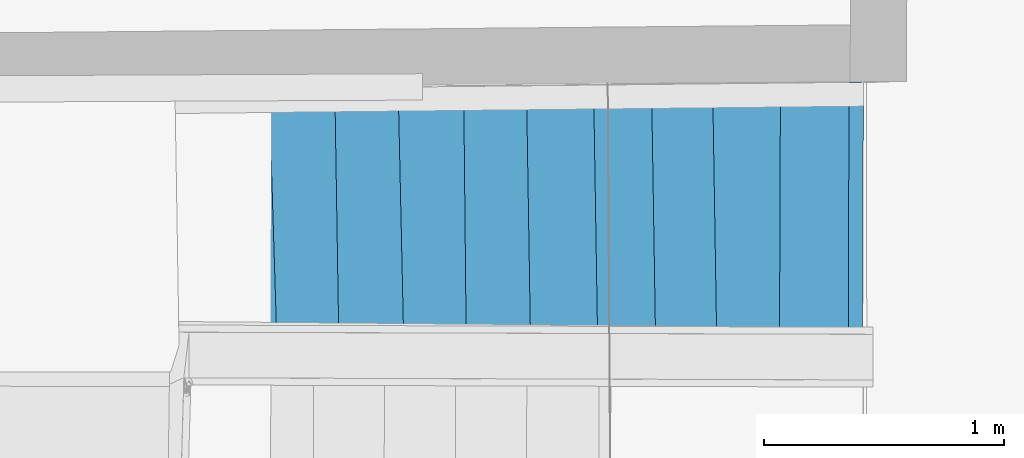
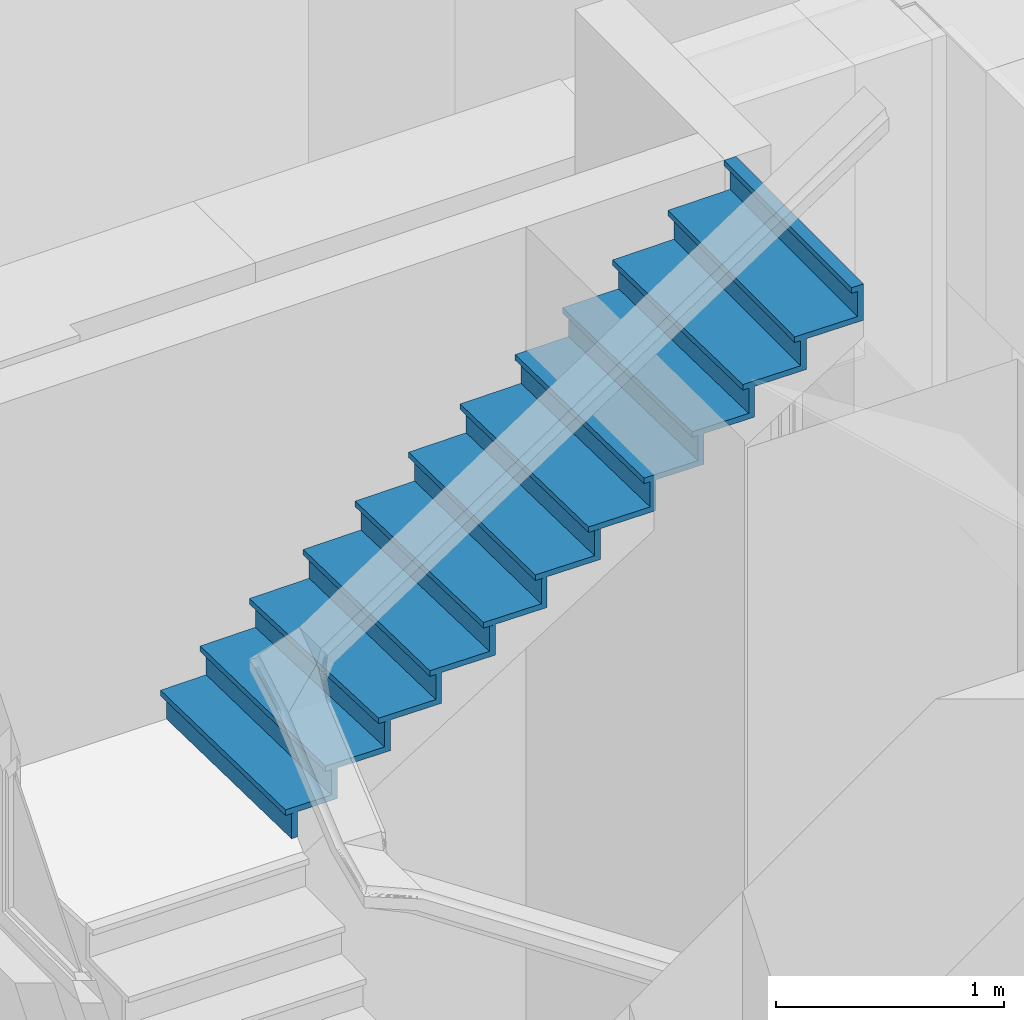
# One storey, part 75 of 97: 1 stair flight, 1 element without a shape of its own.
"""IFC2X3 building model written with IfcOpenShell, lengths in centimetres."""

import ifcopenshell
import ifcopenshell.guid

model = None  # the IFC model being written
_history = None  # IfcOwnerHistory: only IFC2X3 demands one
_inside = {}  # id of a spatial element -> (the spatial element, [elements in it])
_under = {}  # id of a project, library or spatial element -> (it, [spatial elements below it])
_declared = {}  # id of a project -> (the project, [libraries it declares])
_typed = {}  # id of a type object -> (the type object, [elements of that type])
_made_of = {}  # id of a material, layer set ... -> (it, [elements and type objects made of it])


def new_model(schema):
    """Start an empty IFC model of exactly this schema.

    Asked for "IFC4X3", IfcOpenShell would pick the latest addendum, in which some entities
    have other attributes; the version numbers below select the first issue.
    IFC2X3 requires an IfcOwnerHistory on every rooted entity: one is made here for all.
    """
    global model, _history
    if schema == "IFC4X3":
        model = ifcopenshell.file(schema_version=(4, 3, 0, 0))
    else:
        model = ifcopenshell.file(schema=schema)
    _inside.clear()
    _under.clear()
    _declared.clear()
    _typed.clear()
    _made_of.clear()
    _history = None
    if model.schema == "IFC2X3":
        org = make("IfcOrganization", Name="unknown")
        user = make(
            "IfcPersonAndOrganization",
            ThePerson=make("IfcPerson", FamilyName="unknown"),
            TheOrganization=org,
        )
        app = make(
            "IfcApplication",
            ApplicationDeveloper=org,
            Version="unknown",
            ApplicationFullName="unknown",
            ApplicationIdentifier="unknown",
        )
        _history = make(
            "IfcOwnerHistory",
            OwningUser=user,
            OwningApplication=app,
            ChangeAction="ADDED",
            CreationDate=0,
        )
    return model


def make(cls, **values):
    """One entity of the class cls with the attributes given. An attribute that is None is left unset."""
    return model.create_entity(
        cls, **{name: value for name, value in values.items() if value is not None}
    )


def entity(cls, *values):
    """Any entity or typed value of the class cls, its attributes in the order of the schema. None: left unset."""
    e = model.create_entity(cls)
    for i, value in enumerate(values):
        if value is not None:
            e[i] = value
    return e


def rooted(cls, **values):
    """An entity with a GlobalId (a new one), such as an element, a storey or a relation."""
    return make(cls, GlobalId=ifcopenshell.guid.new(), OwnerHistory=_history, **values)


def si_unit(unit_type, name, prefix=None):
    """IfcSIUnit, for example si_unit("LENGTHUNIT", "METRE", prefix="MILLI")."""
    return make("IfcSIUnit", UnitType=unit_type, Prefix=prefix, Name=name)


def converted_unit(unit_type, name, factor, base, dimensions=None, offset=None):
    """IfcConversionBasedUnit, such as the inch: factor (a typed value) times the base unit."""
    return make(
        "IfcConversionBasedUnit"
        if offset is None
        else "IfcConversionBasedUnitWithOffset",
        ConversionOffset=offset,
        Dimensions=None
        if dimensions is None
        else entity("IfcDimensionalExponents", *dimensions),
        UnitType=unit_type,
        Name=name,
        ConversionFactor=make(
            "IfcMeasureWithUnit", ValueComponent=factor, UnitComponent=base
        ),
    )


def assignment(units):
    """IfcUnitAssignment: the units of a project."""
    return None if units is None else make("IfcUnitAssignment", Units=units)


def point(xyz):
    """IfcCartesianPoint."""
    return None if xyz is None else make("IfcCartesianPoint", Coordinates=xyz)


def direction(xyz):
    """IfcDirection."""
    return None if xyz is None else make("IfcDirection", DirectionRatios=xyz)


def frame(location, z_axis=None, x_axis=None):
    """IfcAxis2Placement3D, a coordinate frame: its origin and axes. An axis left out is left unset."""
    return make(
        "IfcAxis2Placement3D",
        Location=point(location),
        Axis=direction(z_axis),
        RefDirection=direction(x_axis),
    )


def origin():
    """The frame at (0, 0, 0) with its axes left unset."""
    return frame((0.0, 0.0, 0.0))


def origin_with_axes():
    """The frame at (0, 0, 0) with the z axis (0, 0, 1) and the x axis (1, 0, 0) written out."""
    return frame((0.0, 0.0, 0.0), z_axis=(0.0, 0.0, 1.0), x_axis=(1.0, 0.0, 0.0))


def place(relative_to, where):
    """IfcLocalPlacement: puts the frame where relative to a parent placement (None: the world)."""
    return make(
        "IfcLocalPlacement", PlacementRelTo=relative_to, RelativePlacement=where
    )


def context(
    kind, dimensions, precision=None, world=None, true_north=None, identifier=None
):
    """IfcGeometricRepresentationContext, for example the 3D "Model" context."""
    return make(
        "IfcGeometricRepresentationContext",
        ContextIdentifier=identifier,
        ContextType=kind,
        CoordinateSpaceDimension=dimensions,
        Precision=precision,
        WorldCoordinateSystem=world,
        TrueNorth=true_north,
    )


def subcontext(parent, identifier, kind, view, scale=None):
    """IfcGeometricRepresentationSubContext, for example "Body" below "Model"."""
    return make(
        "IfcGeometricRepresentationSubContext",
        ContextIdentifier=identifier,
        ContextType=kind,
        ParentContext=parent,
        TargetScale=scale,
        TargetView=view,
    )


def project(units=None, contexts=None):
    """IfcProject with its units and contexts."""
    return rooted(
        "IfcProject",
        Name="project",
        RepresentationContexts=contexts,
        UnitsInContext=assignment(units),
    )


def spatial(cls, under=None, at=None, **own):
    """A site, building, storey or space (cls), placed at a placement, below another one or the project."""
    s = rooted(cls, ObjectPlacement=at, **own)
    if under is not None:
        _under.setdefault(under.id(), (under, []))[1].append(s)
    return s


def faces_of(points, faces, orient=None, outer=None):
    """IfcFace entities. A face is a list of loops; a loop is a list of indices into points, from 0.

    orient and outer hold one flag for each loop. By default every Orientation is true, the
    first loop of a face is its IfcFaceOuterBound and the others are IfcFaceBound.
    """
    made = []
    for i, loops in enumerate(faces):
        bounds = []
        for j, loop in enumerate(loops):
            is_outer = j == 0 if outer is None else outer[i][j]
            bounds.append(
                make(
                    "IfcFaceOuterBound" if is_outer else "IfcFaceBound",
                    Bound=make("IfcPolyLoop", Polygon=[points[k] for k in loop]),
                    Orientation=True if orient is None else orient[i][j],
                )
            )
        made.append(make("IfcFace", Bounds=bounds))
    return made


def faceted_brep(points, faces, orient=None, outer=None, voids=None):
    """IfcFacetedBrep: a solid bounded by flat faces; with voids (closed shells), ...WithVoids."""
    shared = [point(p) for p in points]
    hull = make("IfcClosedShell", CfsFaces=faces_of(shared, faces, orient, outer))
    if voids is None:
        return make("IfcFacetedBrep", Outer=hull)
    return make(
        "IfcFacetedBrepWithVoids",
        Outer=hull,
        Voids=[
            make(cls, CfsFaces=faces_of(shared, fs, o, b)) for cls, fs, o, b in voids
        ],
    )


def shape(context_of_items, identifier, shape_type, items):
    """IfcShapeRepresentation: the items that make up one representation, for example the "Body"."""
    return make(
        "IfcShapeRepresentation",
        ContextOfItems=context_of_items,
        RepresentationIdentifier=identifier,
        RepresentationType=shape_type,
        Items=items,
    )


def material(Name=None, Category=None):
    """IfcMaterial."""
    return make("IfcMaterial", Name=Name, Category=Category)


def material_list(materials):
    """IfcMaterialList."""
    return make("IfcMaterialList", Materials=materials)


def made_of(thing, what):
    """Note that an element or type object is made of a material, layer set ...; save() writes the relation."""
    if what is not None:
        _made_of.setdefault(what.id(), (what, []))[1].append(thing)
    return thing


def element(
    cls,
    number,
    at=None,
    inside=None,
    cuts=None,
    type_object=None,
    material=None,
    context=None,
    identifier="Body",
    shape_type=None,
    held_by="IfcProductDefinitionShape",
    body=None,
    shapes=None,
    **own,
):
    """One element of the class cls, such as IfcWall. Its Tag is "e" and its number.

    at: its placement. inside: the storey or other place that contains it. cuts: it is an
    opening in that element (IfcRelVoidsElement). A single representation is given by context,
    identifier, shape_type and body (its items); several are given by shapes. held_by: the class
    of the entity that holds the representations. save() writes the other relations.
    """
    e = rooted(cls, Tag="e%d" % number, ObjectPlacement=at, **own)
    if body is not None:
        shapes = [shape(context, identifier, shape_type, body)]
    if shapes is not None:
        e.Representation = make(held_by, Representations=shapes)
    if inside is not None:
        _inside.setdefault(inside.id(), (inside, []))[1].append(e)
    if cuts is not None:
        rooted(
            "IfcRelVoidsElement", RelatingBuildingElement=cuts, RelatedOpeningElement=e
        )
    if type_object is not None:
        _typed.setdefault(type_object.id(), (type_object, []))[1].append(e)
    return made_of(e, material)


def aggregate(whole, parts):
    """IfcRelAggregates: a whole, such as a stair, and the parts it consists of."""
    return rooted("IfcRelAggregates", RelatingObject=whole, RelatedObjects=parts)


def save(model, path):
    """Write the relations noted so far, then the file.

    IfcRelAggregates (storeys below a building ...), IfcRelContainedInSpatialStructure (elements
    in a storey), IfcRelDefinesByType, IfcRelAssociatesMaterial and IfcRelDeclares: one each for
    every whole, place, type object, material and project.
    """
    for whole, parts in _under.values():
        aggregate(whole, parts)
    for where, things in _inside.values():
        rooted(
            "IfcRelContainedInSpatialStructure",
            RelatedElements=things,
            RelatingStructure=where,
        )
    for kind, things in _typed.values():
        rooted("IfcRelDefinesByType", RelatedObjects=things, RelatingType=kind)
    for what, things in _made_of.values():
        rooted("IfcRelAssociatesMaterial", RelatedObjects=things, RelatingMaterial=what)
    for by, libraries in _declared.values():
        rooted("IfcRelDeclares", RelatingContext=by, RelatedDefinitions=libraries)
    model.write(path)


model = new_model("IFC2X3")

# Units and contexts
model_context = context("Model", 3, precision=0.0001, world=origin(), true_north=direction((0.225632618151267, 0.974212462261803, 0.0)))
body_context = subcontext(model_context, "Body", "Model", "MODEL_VIEW")
ifc_project = project(units=[si_unit("LENGTHUNIT", "METRE", prefix="CENTI"), si_unit("AREAUNIT", "SQUARE_METRE", prefix="CENTI"), si_unit("VOLUMEUNIT", "CUBIC_METRE", prefix="CENTI"), converted_unit("PLANEANGLEUNIT", "DEGREE", entity("IfcRatioMeasure", 0.0174532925), si_unit("PLANEANGLEUNIT", "RADIAN"), dimensions=[0, 0, 0, 0, 0, 0, 0])], contexts=[model_context])

# Site, building, storey
site_placement = place(None, origin_with_axes())
site = spatial("IfcSite", under=ifc_project, at=site_placement, Name="Default Site", CompositionType="ELEMENT")
building_placement = place(site_placement, origin_with_axes())
building = spatial("IfcBuilding", under=site, at=building_placement, Name="Default Building", CompositionType="ELEMENT")
storey_placement = place(building_placement, origin_with_axes())
storey = spatial("IfcBuildingStorey", under=building, at=storey_placement, Name="Rez-de-chaussée", CompositionType="ELEMENT", Elevation=0.0)

# Stair, stair flight
stair_placement = place(storey_placement, frame((-869.486892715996, -231.842367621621, 0.0), z_axis=(0.0, 0.0, 1.0), x_axis=(1.0, 0.0, 0.0)))
stair = element("IfcStair", 1, at=stair_placement, inside=storey, Name="Escalier 12888", ShapeType="NOTDEFINED")
ifc_material_1 = material(Name="Noyer 01")
ifc_material_2 = material(Name="Épicéa")
ifc_material_list = material_list([ifc_material_1, ifc_material_2])
stair_flight_placement = place(stair_placement, frame((-318.346130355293, 247.82143709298, 293.562626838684), z_axis=(0.0, 0.0, 1.0), x_axis=(0.999872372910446, 0.0159761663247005, 0.0)))
stair_flight = element("IfcStairFlight", 2, at=stair_flight_placement, material=ifc_material_list, Name="4294967269", context=body_context, shape_type="Brep", body=[
    faceted_brep([(-2.99997470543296, 0.0, -13.4757041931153), (0.0, 0.0, -13.4757041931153), (6.44021707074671e-05, -106.823572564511, -13.4757041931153), (-2.99991030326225, -106.823572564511, -13.4757041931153), (0.0, 0.0, -4.44089209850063e-14), (-2.99997470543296, 0.0, -4.44089209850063e-14), (-2.99991030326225, -106.823572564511, -4.44089209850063e-14), (6.44021707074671e-05, -106.823572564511, -4.44089209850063e-14), (-2.99991026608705, -106.823572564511, -13.4757041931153), (-2.99997474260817, -2.2425257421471e-14, -4.44089209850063e-14), (-2.99997470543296, 5.65414373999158e-10, -13.4757041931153), (-1.06565369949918e-19, -5.65414373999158e-10, -4.44089209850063e-14), (-3.71752085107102e-08, -2.24252574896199e-14, -13.4757041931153), (6.44393459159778e-05, -106.823572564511, -4.44089209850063e-14), (6.4402170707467e-05, -106.823572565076, -13.4757041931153), (-2.99991030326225, -106.823572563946, -4.44089209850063e-14)], [[[0, 1, 2]], [[2, 3, 0]], [[4, 5, 6]], [[6, 7, 4]], [[5, 0, 8]], [[3, 6, 9]], [[4, 1, 10]], [[0, 5, 11]], [[7, 2, 12]], [[1, 4, 13]], [[6, 3, 14]], [[2, 7, 15]]]),
    faceted_brep([(17.1911128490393, -0.108181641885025, 3.00002098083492), (20.1910876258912, -0.108177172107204, 3.00002098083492), (20.1912324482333, -107.320694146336, 3.00002098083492), (17.191257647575, -107.32070010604, 3.00002098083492), (20.1910876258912, -0.108177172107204, 16.4757013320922), (17.1911128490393, -0.108181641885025, 16.4757013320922), (17.191257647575, -107.32070010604, 16.4757013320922), (20.1912324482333, -107.320694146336, 16.4757013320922), (17.1912576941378, -107.32070010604, 3.00002098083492), (17.1911128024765, -0.108181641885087, 16.4757013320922), (17.1911128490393, -0.108181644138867, 3.00002098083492), (20.1910876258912, -0.108177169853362, 16.4757013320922), (20.1910876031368, -0.108177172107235, 3.00002098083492), (20.1912324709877, -107.320694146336, 16.4757013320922), (20.1912324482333, -107.32069414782, 3.00002098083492), (17.191257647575, -107.320700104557, 16.4757013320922)], [[[0, 1, 2]], [[2, 3, 0]], [[4, 5, 6]], [[6, 7, 4]], [[5, 0, 8]], [[3, 6, 9]], [[4, 1, 10]], [[0, 5, 11]], [[7, 2, 12]], [[1, 4, 13]], [[6, 3, 14]], [[2, 7, 15]]]),
    faceted_brep([(42.2584909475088, -0.287478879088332, 19.4757223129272), (45.2581354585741, -0.242481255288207, 19.4757223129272), (46.8742438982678, -107.977650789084, 19.4757223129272), (43.8745993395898, -108.022651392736, 19.4757223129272), (45.2581354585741, -0.242481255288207, 32.9514026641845), (42.2584909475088, -0.287478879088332, 32.9514026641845), (43.8745993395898, -108.022651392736, 32.9514026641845), (46.8742438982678, -107.977650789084, 32.9514026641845), (43.874599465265, -108.022651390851, 19.4757223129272), (42.2584908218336, -0.287478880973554, 32.9514026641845), (42.2584909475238, -0.287478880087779, 19.4757223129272), (45.2581354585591, -0.24248125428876, 32.9514026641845), (45.2581354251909, -0.24248125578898, 19.4757223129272), (46.874243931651, -107.977650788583, 32.9514026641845), (46.874243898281, -107.977650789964, 19.4757223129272), (43.8745993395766, -108.022651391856, 32.9514026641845)], [[[0, 1, 2]], [[2, 3, 0]], [[4, 5, 6]], [[6, 7, 4]], [[5, 0, 8]], [[3, 6, 9]], [[4, 1, 10]], [[0, 5, 11]], [[7, 2, 12]], [[1, 4, 13]], [[6, 3, 14]], [[2, 7, 15]]]),
    faceted_brep([(69.6985268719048, -0.389501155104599, 35.9514236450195), (72.6985969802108, -0.38949969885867, 35.9514236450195), (72.6986997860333, -108.613467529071, 35.9514236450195), (69.6987249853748, -108.613473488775, 35.9514236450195), (72.6985969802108, -0.38949969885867, 49.4271039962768), (69.6985268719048, -0.389501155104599, 49.4271039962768), (69.6987249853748, -108.613473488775, 49.4271039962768), (72.6986997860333, -108.613467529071, 49.4271039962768), (69.698725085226, -108.613473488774, 35.9514236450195), (69.6985267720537, -0.389501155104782, 49.4271039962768), (69.6985268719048, -0.389501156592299, 35.9514236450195), (72.6985969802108, -0.38949969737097, 49.4271039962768), (72.6985970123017, -0.389499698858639, 35.9514236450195), (72.6986997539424, -108.613467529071, 49.4271039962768), (72.6986997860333, -108.613467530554, 35.9514236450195), (69.6987249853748, -108.613473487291, 49.4271039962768)], [[[0, 1, 2]], [[2, 3, 0]], [[4, 5, 6]], [[6, 7, 4]], [[5, 0, 8]], [[3, 6, 9]], [[4, 1, 10]], [[0, 5, 11]], [[7, 2, 12]], [[1, 4, 13]], [[6, 3, 14]], [[2, 7, 15]]]),
    faceted_brep([(96.1423586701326, -0.548973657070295, 52.4271249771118), (99.1423315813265, -0.531177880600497, 52.4271249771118), (99.7873917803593, -109.28041738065, 52.4271249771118), (96.787514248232, -109.2982131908, 52.4271249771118), (99.1423315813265, -0.531177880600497, 65.902829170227), (96.1423586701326, -0.548973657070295, 65.902829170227), (96.787514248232, -109.2982131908, 65.902829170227), (99.7873917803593, -109.28041738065, 65.902829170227), (96.7875143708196, -109.298213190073, 52.4271249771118), (96.142358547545, -0.548973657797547, 65.902829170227), (96.1423586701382, -0.548973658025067, 52.4271249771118), (99.1423315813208, -0.531177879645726, 65.902829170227), (99.1423316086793, -0.531177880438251, 52.4271249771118), (99.7873917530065, -109.280417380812, 65.902829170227), (99.7873917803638, -109.2804173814, 52.4271249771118), (96.7875142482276, -109.29821319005, 65.902829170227)], [[[0, 1, 2]], [[2, 3, 0]], [[4, 5, 6]], [[6, 7, 4]], [[5, 0, 8]], [[3, 6, 9]], [[4, 1, 10]], [[0, 5, 11]], [[7, 2, 12]], [[1, 4, 13]], [[6, 3, 14]], [[2, 7, 15]]]),
    faceted_brep([(123.481340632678, -0.659904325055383, 68.9028263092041), (126.481222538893, -0.67765090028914, 68.9028263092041), (125.834948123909, -109.921730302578, 68.9028263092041), (122.835066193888, -109.90398521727, 68.9028263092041), (126.481222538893, -0.67765090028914, 82.3785305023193), (123.481340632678, -0.659904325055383, 82.3785305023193), (122.835066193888, -109.90398521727, 82.3785305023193), (125.834948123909, -109.921730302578, 82.3785305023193), (122.835066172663, -109.903985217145, 68.9028263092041), (123.481340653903, -0.659904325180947, 82.3785305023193), (123.481340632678, -0.659904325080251, 68.9028263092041), (126.481222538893, -0.677650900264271, 82.3785305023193), (126.48122257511, -0.677650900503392, 68.9028263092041), (125.834948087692, -109.921730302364, 82.3785305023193), (125.834948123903, -109.921730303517, 68.9028263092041), (122.835066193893, -109.903985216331, 82.3785305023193)], [[[0, 1, 2]], [[2, 3, 0]], [[4, 5, 6]], [[6, 7, 4]], [[5, 0, 8]], [[3, 6, 9]], [[4, 1, 10]], [[0, 5, 11]], [[7, 2, 12]], [[1, 4, 13]], [[6, 3, 14]], [[2, 7, 15]]]),
    faceted_brep([(149.68178521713, -0.818028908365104, 85.3785276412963), (152.681759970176, -0.818025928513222, 85.3785276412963), (152.681947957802, -110.582725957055, 85.3785276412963), (149.681973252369, -110.582725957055, 85.3785276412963), (152.681759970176, -0.818025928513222, 98.8542318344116), (149.68178521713, -0.818028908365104, 98.8542318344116), (149.681973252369, -110.582725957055, 98.8542318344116), (152.681947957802, -110.582725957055, 98.8542318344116), (149.681973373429, -110.582725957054, 85.3785276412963), (149.68178509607, -0.818028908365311, 98.8542318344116), (149.68178521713, -0.818028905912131, 85.3785276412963), (152.681759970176, -0.818025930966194, 98.8542318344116), (152.681760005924, -0.818025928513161, 85.3785276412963), (152.681947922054, -110.582725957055, 98.8542318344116), (152.681947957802, -110.58272595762, 85.3785276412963), (149.681973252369, -110.582725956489, 98.8542318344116)], [[[0, 1, 2]], [[2, 3, 0]], [[4, 5, 6]], [[6, 7, 4]], [[5, 0, 8]], [[3, 6, 9]], [[4, 1, 10]], [[0, 5, 11]], [[7, 2, 12]], [[1, 4, 13]], [[6, 3, 14]], [[2, 7, 15]]]),
    faceted_brep([(177.684079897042, -0.968057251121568, 101.854228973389), (180.684150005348, -0.968055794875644, 101.854228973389), (180.684207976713, -111.272165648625, 101.854228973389), (177.684233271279, -111.272165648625, 101.854228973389), (180.684150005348, -0.968055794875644, 115.329909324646), (177.684079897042, -0.968057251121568, 115.329909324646), (177.684233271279, -111.272165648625, 115.329909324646), (180.684207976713, -111.272165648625, 115.329909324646), (177.684233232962, -111.272165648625, 101.854228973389), (177.68407993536, -0.968057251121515, 115.329909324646), (177.684079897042, -0.968057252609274, 101.854228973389), (180.684150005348, -0.968055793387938, 115.329909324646), (180.684150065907, -0.968055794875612, 101.854228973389), (180.684207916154, -111.272165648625, 115.329909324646), (180.684207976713, -111.27216564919, 101.854228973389), (177.684233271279, -111.272165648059, 115.329909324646)], [[[0, 1, 2]], [[2, 3, 0]], [[4, 5, 6]], [[6, 7, 4]], [[5, 0, 8]], [[3, 6, 9]], [[4, 1, 10]], [[0, 5, 11]], [[7, 2, 12]], [[1, 4, 13]], [[6, 3, 14]], [[2, 7, 15]]]),
    faceted_brep([(201.866462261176, -1.09762085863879, 118.329930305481), (204.866437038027, -1.09761638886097, 118.329930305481), (204.866586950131, -111.867551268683, 118.329930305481), (201.866612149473, -111.867557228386, 118.329930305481), (204.866437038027, -1.09761638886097, 131.805634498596), (201.866462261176, -1.09762085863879, 131.805634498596), (201.866612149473, -111.867557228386, 131.805634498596), (204.866586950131, -111.867551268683, 131.805634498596), (201.866612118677, -111.867557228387, 118.329930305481), (201.866462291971, -1.09762085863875, 131.805634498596), (201.866462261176, -1.09762086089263, 118.329930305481), (204.866437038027, -1.09761638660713, 131.805634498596), (204.866437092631, -1.0976163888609, 118.329930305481), (204.866586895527, -111.867551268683, 131.805634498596), (204.866586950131, -111.867551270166, 118.329930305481), (201.866612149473, -111.867557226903, 131.805634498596)], [[[0, 1, 2]], [[2, 3, 0]], [[4, 5, 6]], [[6, 7, 4]], [[5, 0, 8]], [[3, 6, 9]], [[4, 1, 10]], [[0, 5, 11]], [[7, 2, 12]], [[1, 4, 13]], [[6, 3, 14]], [[2, 7, 15]]]),
    faceted_brep([(227.368785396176, -1.23425394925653, 134.805607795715), (230.368760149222, -1.23425096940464, 134.805607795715), (230.368977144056, -112.495444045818, 134.805607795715), (227.368907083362, -112.495442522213, 134.805607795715), (230.368760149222, -1.23425096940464, 148.28131198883), (227.368785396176, -1.23425394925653, 148.28131198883), (227.368907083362, -112.495442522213, 148.28131198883), (230.368977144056, -112.495444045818, 148.28131198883), (227.368907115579, -112.495442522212, 134.805607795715), (227.368785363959, -1.23425394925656, 148.28131198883), (227.368785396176, -1.23425394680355, 134.805607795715), (230.368760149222, -1.23425097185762, 148.28131198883), (230.368760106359, -1.23425096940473, 134.805607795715), (230.368977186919, -112.495444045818, 148.28131198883), (230.368977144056, -112.495444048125, 134.805607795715), (227.368907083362, -112.495442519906, 148.28131198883)], [[[0, 1, 2]], [[2, 3, 0]], [[4, 5, 6]], [[6, 7, 4]], [[5, 0, 8]], [[3, 6, 9]], [[4, 1, 10]], [[0, 5, 11]], [[7, 2, 12]], [[1, 4, 13]], [[6, 3, 14]], [[2, 7, 15]]]),
    faceted_brep([(255.675397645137, -1.32701387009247, 151.281332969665), (258.674812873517, -1.38590630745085, 151.281332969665), (256.480508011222, -113.138333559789, 151.281332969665), (253.481092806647, -113.079439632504, 151.281332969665), (258.674812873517, -1.38590630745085, 164.757037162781), (255.675397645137, -1.32701387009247, 164.757037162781), (253.481092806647, -113.079439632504, 164.757037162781), (256.480508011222, -113.138333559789, 164.757037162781), (253.481092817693, -113.079439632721, 151.281332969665), (255.675397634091, -1.32701386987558, 164.757037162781), (255.675397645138, -1.32701387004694, 151.281332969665), (258.674812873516, -1.38590630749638, 164.757037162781), (258.674812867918, -1.38590630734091, 151.281332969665), (256.48050801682, -113.138333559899, 164.757037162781), (256.480508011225, -113.138333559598, 151.281332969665), (253.481092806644, -113.079439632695, 164.757037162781)], [[[0, 1, 2]], [[2, 3, 0]], [[4, 5, 6]], [[6, 7, 4]], [[5, 0, 8]], [[3, 6, 9]], [[4, 1, 10]], [[0, 5, 11]], [[7, 2, 12]], [[1, 4, 13]], [[6, 3, 14]], [[2, 7, 15]]]),
    faceted_brep([(284.305685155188, -1.48216585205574, 167.7570104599), (287.305128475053, -1.53930017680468, 167.7570104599), (285.165894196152, -113.844589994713, 167.7570104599), (282.166450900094, -113.787454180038, 167.7570104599), (287.305128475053, -1.53930017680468, 181.232714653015), (284.305685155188, -1.48216585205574, 181.232714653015), (282.166450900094, -113.787454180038, 181.232714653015), (285.165894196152, -113.844589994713, 181.232714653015), (282.166450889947, -113.787454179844, 167.7570104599), (284.305685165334, -1.48216585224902, 181.232714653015), (284.305685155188, -1.48216585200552, 167.7570104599), (287.305128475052, -1.5393001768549, 181.232714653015), (287.305128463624, -1.53930017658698, 167.7570104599), (285.165894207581, -113.84458999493, 181.232714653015), (285.165894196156, -113.844589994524, 167.7570104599), (282.16645090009, -113.787454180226, 181.232714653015)], [[[0, 1, 2]], [[2, 3, 0]], [[4, 5, 6]], [[6, 7, 4]], [[5, 0, 8]], [[3, 6, 9]], [[4, 1, 10]], [[0, 5, 11]], [[7, 2, 12]], [[1, 4, 13]], [[6, 3, 14]], [[2, 7, 15]]]),
    faceted_brep([(-5.99990911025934, -106.675847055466, 3.00002098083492), (20.1912324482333, -107.320694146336, 3.00002098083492), (20.1910876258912, -0.108177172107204, 3.00002098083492), (-6.00000803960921, 0.0321468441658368, 3.00002098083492), (20.1910876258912, -0.108177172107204, -4.44089209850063e-14), (20.1912324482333, -107.320694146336, -4.44089209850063e-14), (-5.99990911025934, -106.675847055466, -4.44089209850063e-14), (-6.00000803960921, 0.0321468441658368, -4.44089209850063e-14), (-6.00000805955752, 0.0321468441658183, 3.00002098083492), (-5.99990909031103, -106.675847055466, -4.44089209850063e-14), (-5.99990911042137, -106.675847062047, 3.00002098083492), (20.1912324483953, -107.320694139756, -4.44089209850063e-14), (20.1912324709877, -107.320694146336, 3.00002098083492), (20.1910876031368, -0.108177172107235, -4.44089209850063e-14), (20.1910876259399, -0.108177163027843, 3.00002098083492), (-6.00000803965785, 0.0321468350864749, -4.44089209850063e-14)], [[[0, 1, 2]], [[2, 3, 0]], [[4, 5, 6]], [[6, 7, 4]], [[6, 0, 8]], [[3, 7, 9]], [[5, 1, 10]], [[0, 6, 11]], [[4, 2, 12]], [[1, 5, 13]], [[7, 3, 14]], [[2, 4, 15]]]),
    faceted_brep([(14.1912589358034, -107.172968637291, 19.4757223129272), (46.8742438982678, -107.977650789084, 19.4757223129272), (45.2581354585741, -0.242481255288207, 19.4757223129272), (14.1911749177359, -0.0760333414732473, 19.4757223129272), (45.2581354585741, -0.242481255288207, 16.4757013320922), (46.8742438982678, -107.977650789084, 16.4757013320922), (14.1912589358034, -107.172968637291, 16.4757013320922), (14.1911749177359, -0.0760333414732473, 16.4757013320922), (14.1911749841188, -0.0760333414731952, 19.4757223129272), (14.1912588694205, -107.172968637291, 16.4757013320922), (14.1912589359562, -107.172968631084, 19.4757223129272), (46.874243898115, -107.977650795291, 16.4757013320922), (46.874243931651, -107.977650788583, 19.4757223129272), (45.2581354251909, -0.24248125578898, 16.4757013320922), (45.2581354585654, -0.242481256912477, 19.4757223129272), (14.1911749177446, -0.0760333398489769, 16.4757013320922)], [[[0, 1, 2]], [[2, 3, 0]], [[4, 5, 6]], [[6, 7, 4]], [[6, 0, 8]], [[3, 7, 9]], [[5, 1, 10]], [[0, 6, 11]], [[4, 2, 12]], [[1, 5, 13]], [[7, 3, 14]], [[2, 4, 15]]]),
    faceted_brep([(40.8713147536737, -107.829854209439, 35.9514236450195), (72.6986997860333, -108.613467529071, 35.9514236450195), (72.6985969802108, -0.38949969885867, 35.9514236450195), (39.2569829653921, -0.210328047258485, 35.9514236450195), (72.6985969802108, -0.38949969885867, 32.9514026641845), (72.6986997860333, -108.613467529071, 32.9514026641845), (40.8713147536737, -107.829854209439, 32.9514026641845), (39.2569829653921, -0.210328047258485, 32.9514026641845), (39.2569831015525, -0.210328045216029, 35.9514236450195), (40.8713146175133, -107.829854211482, 32.9514026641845), (40.8713147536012, -107.829854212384, 35.9514236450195), (72.6986997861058, -108.613467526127, 32.9514026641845), (72.6986997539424, -108.613467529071, 35.9514236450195), (72.6985970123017, -0.389499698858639, 32.9514026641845), (72.6985969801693, -0.389499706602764, 35.9514236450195), (39.2569829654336, -0.210328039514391, 32.9514026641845)], [[[0, 1, 2]], [[2, 3, 0]], [[4, 5, 6]], [[6, 7, 4]], [[6, 0, 8]], [[3, 7, 9]], [[5, 1, 10]], [[0, 6, 11]], [[4, 2, 12]], [[1, 5, 13]], [[7, 3, 14]], [[2, 4, 15]]]),
    faceted_brep([(66.6987261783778, -108.465747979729, 52.4271249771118), (99.7873917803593, -109.28041738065, 52.4271249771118), (99.1423315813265, -0.531177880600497, 52.4271249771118), (66.6985889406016, -0.357352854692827, 52.4271249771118), (99.1423315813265, -0.531177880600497, 49.4271039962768), (99.7873917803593, -109.28041738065, 49.4271039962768), (66.6987261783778, -108.465747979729, 49.4271039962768), (66.6985889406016, -0.357352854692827, 49.4271039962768), (66.6985889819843, -0.357352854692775, 52.4271249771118), (66.698726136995, -108.465747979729, 49.4271039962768), (66.6987261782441, -108.465747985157, 52.4271249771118), (99.787391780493, -109.280417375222, 49.4271039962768), (99.7873917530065, -109.280417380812, 52.4271249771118), (99.1423316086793, -0.531177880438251, 49.4271039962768), (99.1423315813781, -0.531177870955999, 52.4271249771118), (66.6985889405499, -0.357352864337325, 49.4271039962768)], [[[0, 1, 2]], [[2, 3, 0]], [[4, 5, 6]], [[6, 7, 4]], [[6, 0, 8]], [[3, 7, 9]], [[5, 1, 10]], [[0, 6, 11]], [[4, 2, 12]], [[1, 5, 13]], [[7, 3, 14]], [[2, 4, 15]]]),
    faceted_brep([(93.786464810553, -109.132670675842, 68.9028263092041), (125.834948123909, -109.921730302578, 68.9028263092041), (126.481222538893, -0.67765090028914, 68.9028263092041), (93.1420374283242, -0.499029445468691, 68.9028263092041), (126.481222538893, -0.67765090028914, 65.902829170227), (125.834948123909, -109.921730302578, 65.902829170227), (93.786464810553, -109.132670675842, 65.902829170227), (93.1420374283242, -0.499029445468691, 65.902829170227), (93.1420375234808, -0.499029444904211, 68.9028263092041), (93.7864647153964, -109.132670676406, 65.902829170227), (93.7864648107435, -109.132670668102, 68.9028263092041), (125.834948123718, -109.921730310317, 65.902829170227), (125.834948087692, -109.921730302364, 68.9028263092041), (126.48122257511, -0.677650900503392, 65.902829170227), (126.481222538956, -0.677650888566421, 68.9028263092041), (93.1420374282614, -0.499029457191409, 65.902829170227)], [[[0, 1, 2]], [[2, 3, 0]], [[4, 5, 6]], [[6, 7, 4]], [[6, 0, 8]], [[3, 7, 9]], [[5, 1, 10]], [[0, 6, 11]], [[4, 2, 12]], [[1, 5, 13]], [[7, 3, 14]], [[2, 4, 15]]]),
    faceted_brep([(119.835737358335, -109.774022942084, 85.3785276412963), (152.681947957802, -110.582725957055, 85.3785276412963), (152.681759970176, -0.818025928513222, 85.3785276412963), (120.481363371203, -0.642156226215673, 85.3785276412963), (152.681759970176, -0.818025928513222, 82.3785305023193), (152.681947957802, -110.582725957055, 82.3785305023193), (119.835737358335, -109.774022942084, 82.3785305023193), (120.481363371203, -0.642156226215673, 82.3785305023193), (120.48136342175, -0.642156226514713, 85.3785276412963), (119.835737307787, -109.774022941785, 82.3785305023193), (119.835737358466, -109.774022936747, 85.3785276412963), (152.681947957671, -110.582725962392, 82.3785305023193), (152.681947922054, -110.582725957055, 85.3785276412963), (152.681760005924, -0.818025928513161, 82.3785305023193), (152.681759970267, -0.818025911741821, 85.3785276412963), (120.481363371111, -0.642156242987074, 82.3785305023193)], [[[0, 1, 2]], [[2, 3, 0]], [[4, 5, 6]], [[6, 7, 4]], [[6, 0, 8]], [[3, 7, 9]], [[5, 1, 10]], [[0, 6, 11]], [[4, 2, 12]], [[1, 5, 13]], [[7, 3, 14]], [[2, 4, 15]]]),
    faceted_brep([(146.681974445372, -110.435000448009, 101.854228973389), (180.684207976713, -111.272165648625, 101.854228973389), (180.684150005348, -0.968055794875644, 101.854228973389), (146.681847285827, -0.785880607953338, 101.854228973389), (180.684150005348, -0.968055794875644, 98.8542318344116), (180.684207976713, -111.272165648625, 98.8542318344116), (146.681974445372, -110.435000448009, 98.8542318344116), (146.681847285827, -0.785880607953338, 98.8542318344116), (146.681847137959, -0.785880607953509, 101.854228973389), (146.68197459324, -110.435000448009, 98.8542318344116), (146.681974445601, -110.435000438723, 101.854228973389), (180.684207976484, -111.272165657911, 98.8542318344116), (180.684207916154, -111.272165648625, 101.854228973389), (180.684150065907, -0.968055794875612, 98.8542318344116), (180.684150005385, -0.968055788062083, 101.854228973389), (146.68184728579, -0.785880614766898, 98.8542318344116)], [[[0, 1, 2]], [[2, 3, 0]], [[4, 5, 6]], [[6, 7, 4]], [[6, 0, 8]], [[3, 7, 9]], [[5, 1, 10]], [[0, 6, 11]], [[4, 2, 12]], [[1, 5, 13]], [[7, 3, 14]], [[2, 4, 15]]]),
    faceted_brep([(174.684234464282, -111.124440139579, 118.329930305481), (204.866586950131, -111.867551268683, 118.329930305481), (204.866437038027, -1.09761638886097, 118.329930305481), (174.684141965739, -0.935908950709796, 118.329930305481), (204.866437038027, -1.09761638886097, 115.329909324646), (204.866586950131, -111.867551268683, 115.329909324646), (174.684234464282, -111.124440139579, 115.329909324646), (174.684141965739, -0.935908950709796, 115.329909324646), (174.684141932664, -0.935908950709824, 118.329930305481), (174.684234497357, -111.124440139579, 115.329909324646), (174.684234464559, -111.124440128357, 118.329930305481), (204.866586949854, -111.867551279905, 115.329909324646), (204.866586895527, -111.867551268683, 118.329930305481), (204.866437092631, -1.0976163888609, 115.329909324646), (204.866437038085, -1.09761637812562, 118.329930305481), (174.684141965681, -0.935908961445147, 115.329909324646)], [[[0, 1, 2]], [[2, 3, 0]], [[4, 5, 6]], [[6, 7, 4]], [[6, 0, 8]], [[3, 7, 9]], [[5, 1, 10]], [[0, 6, 11]], [[4, 2, 12]], [[1, 5, 13]], [[7, 3, 14]], [[2, 4, 15]]]),
    faceted_brep([(198.866613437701, -111.719825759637, 134.805607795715), (230.368977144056, -112.495444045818, 134.805607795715), (230.368760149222, -1.23425096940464, 134.805607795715), (198.866428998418, -1.06546954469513, 134.805607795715), (230.368760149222, -1.23425096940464, 131.805634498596), (230.368977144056, -112.495444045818, 131.805634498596), (198.866613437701, -111.719825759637, 131.805634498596), (198.866428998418, -1.06546954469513, 131.805634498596), (198.866428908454, -1.06546954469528, 134.805607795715), (198.866613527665, -111.719825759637, 131.805634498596), (198.866613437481, -111.719825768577, 134.805607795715), (230.368977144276, -112.495444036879, 131.805634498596), (230.368977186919, -112.495444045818, 134.805607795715), (230.368760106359, -1.23425096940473, 131.805634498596), (230.368760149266, -1.23425096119, 134.805607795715), (198.866428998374, -1.06546955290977, 131.805634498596)], [[[0, 1, 2]], [[2, 3, 0]], [[4, 5, 6]], [[6, 7, 4]], [[6, 0, 8]], [[3, 7, 9]], [[5, 1, 10]], [[0, 6, 11]], [[4, 2, 12]], [[1, 5, 13]], [[7, 3, 14]], [[2, 4, 15]]]),
    faceted_brep([(224.368908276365, -112.347717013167, 151.281332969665), (256.480508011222, -113.138333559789, 151.281332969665), (258.674812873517, -1.38590630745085, 151.281332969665), (224.368847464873, -1.20210564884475, 151.281332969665), (258.674812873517, -1.38590630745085, 148.28131198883), (256.480508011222, -113.138333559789, 148.28131198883), (224.368908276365, -112.347717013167, 148.28131198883), (224.368847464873, -1.20210564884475, 148.28131198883), (224.368847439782, -1.20210564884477, 151.281332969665), (224.368908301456, -112.347717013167, 148.28131198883), (224.368908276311, -112.347717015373, 151.281332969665), (256.480508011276, -113.138333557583, 148.28131198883), (256.48050801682, -113.138333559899, 151.281332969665), (258.674812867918, -1.38590630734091, 148.28131198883), (258.674812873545, -1.38590630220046, 151.281332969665), (224.368847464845, -1.20210565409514, 148.28131198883)], [[[0, 1, 2]], [[2, 3, 0]], [[4, 5, 6]], [[6, 7, 4]], [[6, 0, 8]], [[3, 7, 9]], [[5, 1, 10]], [[0, 6, 11]], [[4, 2, 12]], [[1, 5, 13]], [[7, 3, 14]], [[2, 4, 15]]]),
    faceted_brep([(252.674327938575, -1.35375929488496, 167.7570104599), (250.482250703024, -112.990647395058, 167.7570104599), (285.165894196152, -113.844589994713, 167.7570104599), (287.305128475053, -1.53930017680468, 167.7570104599), (285.165894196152, -113.844589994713, 164.757037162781), (250.482250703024, -112.990647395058, 164.757037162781), (252.674327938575, -1.35375929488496, 164.757037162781), (287.305128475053, -1.53930017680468, 164.757037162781), (252.67432793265, -1.35375929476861, 167.7570104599), (250.482250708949, -112.990647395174, 164.757037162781), (250.482250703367, -112.990647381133, 167.7570104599), (285.16589419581, -113.844590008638, 164.757037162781), (285.165894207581, -113.84458999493, 167.7570104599), (287.305128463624, -1.53930017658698, 164.757037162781), (287.305128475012, -1.53930018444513, 167.7570104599), (252.674327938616, -1.35375928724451, 164.757037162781)], [[[0, 1, 2]], [[2, 3, 0]], [[4, 5, 6]], [[6, 7, 4]], [[5, 1, 8]], [[0, 6, 9]], [[4, 2, 10]], [[1, 5, 11]], [[7, 3, 12]], [[2, 4, 13]], [[6, 0, 14]], [[3, 7, 15]]]),
    faceted_brep([(279.166912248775, -113.730316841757, 184.23273563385), (285.165894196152, -113.844589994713, 184.23273563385), (287.305128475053, -1.53930017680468, 184.23273563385), (281.306146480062, -1.42503000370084, 184.23273563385), (285.165894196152, -113.844589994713, 181.232714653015), (279.166912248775, -113.730316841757, 181.232714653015), (281.306146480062, -1.42503000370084, 181.232714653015), (287.305128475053, -1.53930017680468, 181.232714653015), (281.306146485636, -1.42503000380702, 184.23273563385), (279.1669122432, -113.730316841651, 181.232714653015), (279.166912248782, -113.730316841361, 184.23273563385), (285.165894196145, -113.844589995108, 181.232714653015), (285.165894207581, -113.84458999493, 184.23273563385), (287.305128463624, -1.53930017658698, 181.232714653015), (287.305128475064, -1.53930017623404, 184.23273563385), (281.306146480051, -1.42503000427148, 181.232714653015)], [[[0, 1, 2]], [[2, 3, 0]], [[4, 5, 6]], [[6, 7, 4]], [[5, 0, 8]], [[3, 6, 9]], [[4, 1, 10]], [[0, 5, 11]], [[7, 2, 12]], [[1, 4, 13]], [[6, 3, 14]], [[2, 7, 15]]]),
])
aggregate(stair, [stair_flight])

save(model, "model.ifc")
